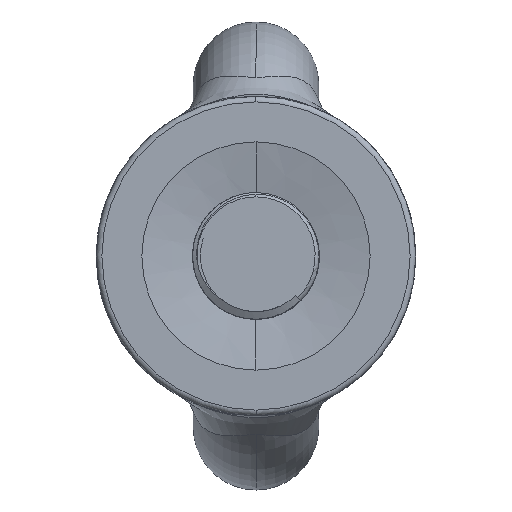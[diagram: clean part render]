
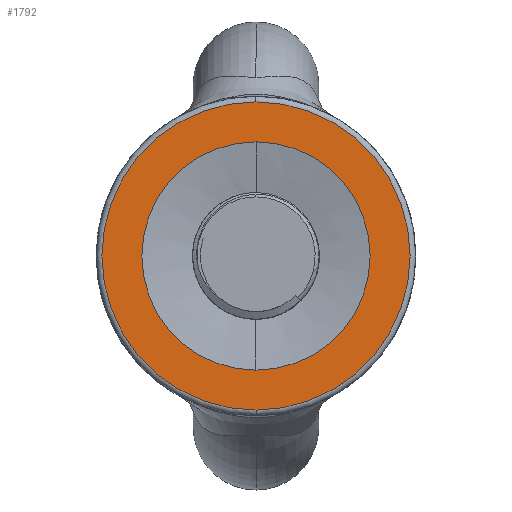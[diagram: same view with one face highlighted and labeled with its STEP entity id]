
A CAD part, left-side view. The second image highlights one B-rep face of the part: STEP entity #1792.
In plain terms, the highlighted planar face has unit normal (-1, 0, 0).
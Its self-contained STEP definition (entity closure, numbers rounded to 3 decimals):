
#14 = CIRCLE ( 'NONE', #2093, 13.5 ) ;
#104 = FACE_BOUND ( 'NONE', #299, .T. ) ;
#111 = FACE_OUTER_BOUND ( 'NONE', #4268, .T. ) ;
#299 = EDGE_LOOP ( 'NONE', ( #521, #511 ) ) ;
#381 = EDGE_CURVE ( 'NONE', #490, #484, #5401, .T. ) ;
#382 = EDGE_CURVE ( 'NONE', #2117, #449, #5403, .T. ) ;
#425 = AXIS2_PLACEMENT_3D ( 'NONE', #2016, #2015, #2014 ) ;
#426 = AXIS2_PLACEMENT_3D ( 'NONE', #1968, #1978, #1947 ) ;
#442 = AXIS2_PLACEMENT_3D ( 'NONE', #5205, #5206, #5207 ) ;
#449 = VERTEX_POINT ( 'NONE', #4423 ) ;
#484 = VERTEX_POINT ( 'NONE', #4664 ) ;
#490 = VERTEX_POINT ( 'NONE', #4670 ) ;
#511 = ORIENTED_EDGE ( 'NONE', *, *, #991, .F. ) ;
#521 = ORIENTED_EDGE ( 'NONE', *, *, #382, .F. ) ;
#523 = ORIENTED_EDGE ( 'NONE', *, *, #381, .T. ) ;
#526 = ORIENTED_EDGE ( 'NONE', *, *, #1828, .T. ) ;
#991 = EDGE_CURVE ( 'NONE', #449, #2117, #5429, .T. ) ;
#1315 = CARTESIAN_POINT ( 'NONE',  ( 0., 0., -10. ) ) ;
#1318 = PLANE ( 'NONE',  #2089 ) ;
#1320 = DIRECTION ( 'NONE',  ( 1., 0., 0. ) ) ;
#1321 = DIRECTION ( 'NONE',  ( 0., 0., -1. ) ) ;
#1792 = ADVANCED_FACE ( 'NONE', ( #111, #104 ), #1318, .F. ) ;
#1828 = EDGE_CURVE ( 'NONE', #484, #490, #14, .T. ) ;
#1947 = DIRECTION ( 'NONE',  ( 0., 0., 1. ) ) ;
#1968 = CARTESIAN_POINT ( 'NONE',  ( 0., 0., 0. ) ) ;
#1978 = DIRECTION ( 'NONE',  ( -1., 0., 0. ) ) ;
#2014 = DIRECTION ( 'NONE',  ( 0., 0., -1. ) ) ;
#2015 = DIRECTION ( 'NONE',  ( -1., 0., 0. ) ) ;
#2016 = CARTESIAN_POINT ( 'NONE',  ( 0., 0., 0. ) ) ;
#2089 = AXIS2_PLACEMENT_3D ( 'NONE', #1315, #1320, #1321 ) ;
#2093 = AXIS2_PLACEMENT_3D ( 'NONE', #3353, #3354, #3355 ) ;
#2117 = VERTEX_POINT ( 'NONE', #3522 ) ;
#3353 = CARTESIAN_POINT ( 'NONE',  ( 0., 0., 0. ) ) ;
#3354 = DIRECTION ( 'NONE',  ( -1., 0., 0. ) ) ;
#3355 = DIRECTION ( 'NONE',  ( 0., 0., -1. ) ) ;
#3522 = CARTESIAN_POINT ( 'NONE',  ( 0., 0., 10. ) ) ;
#4268 = EDGE_LOOP ( 'NONE', ( #523, #526 ) ) ;
#4423 = CARTESIAN_POINT ( 'NONE',  ( 0., 0., -10. ) ) ;
#4664 = CARTESIAN_POINT ( 'NONE',  ( 0., 0., 13.5 ) ) ;
#4670 = CARTESIAN_POINT ( 'NONE',  ( 0., 0., -13.5 ) ) ;
#5205 = CARTESIAN_POINT ( 'NONE',  ( 0., 0., 0. ) ) ;
#5206 = DIRECTION ( 'NONE',  ( -1., 0., 0. ) ) ;
#5207 = DIRECTION ( 'NONE',  ( 0., 0., 1. ) ) ;
#5401 = CIRCLE ( 'NONE', #425, 13.5 ) ;
#5403 = CIRCLE ( 'NONE', #426, 10. ) ;
#5429 = CIRCLE ( 'NONE', #442, 10. ) ;
